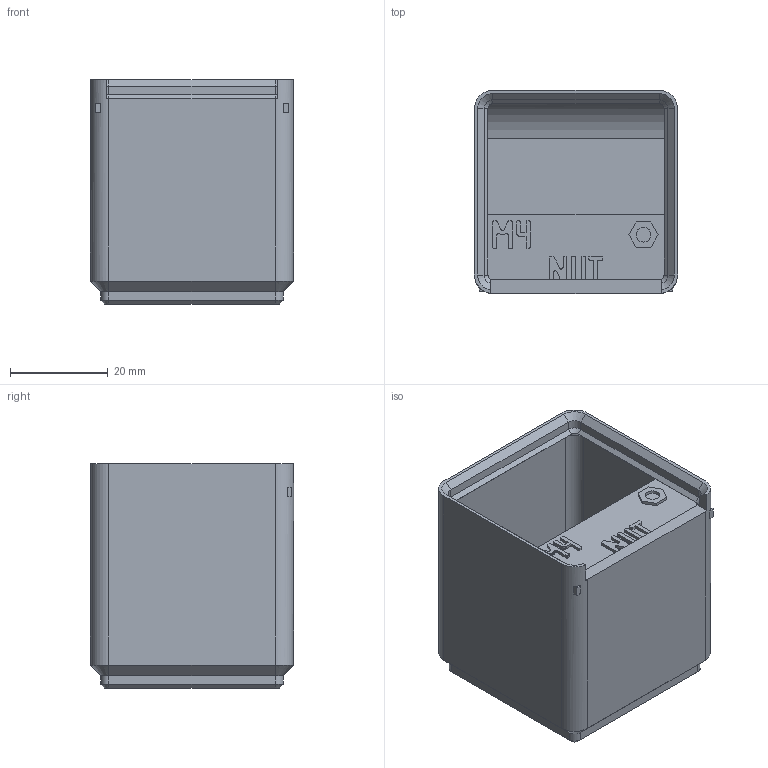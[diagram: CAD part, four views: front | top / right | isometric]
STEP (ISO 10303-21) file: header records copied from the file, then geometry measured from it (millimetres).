
FILE_DESCRIPTION(('Open CASCADE Model'),'2;1');
FILE_NAME('Open CASCADE Shape Model','2026-11-03T10:35:47',('Author'),( 'Open CASCADE'),'Open CASCADE STEP processor 8.0','build123d', 'Unknown');
FILE_SCHEMA(('AUTOMOTIVE_DESIGN { 1 0 10303 214 1 1 1 1 }'));
Length unit declared in the file: millimetre
Products named in the file (1): COMPOUND
Bounding box: 41.5 x 41.5 x 45.9 mm (x, y, z)
Volume: 17205.3 mm3; surface area: 17495.6 mm2
Topology: 1 solids, 1 shells, 515 faces, 1476 edges, 968 vertices
Faces by surface type: plane 477, cone 20, cylinder 18
Full cylindrical faces by diameter (mm): 3 x1
Entity records: 34839 total; most frequent: CARTESIAN_POINT 7508, DIRECTION 4313, LINE 3150, VECTOR 3150, ORIENTED_EDGE 2952, PCURVE 2952, DEFINITIONAL_REPRESENTATION 2952, EDGE_CURVE 1476
